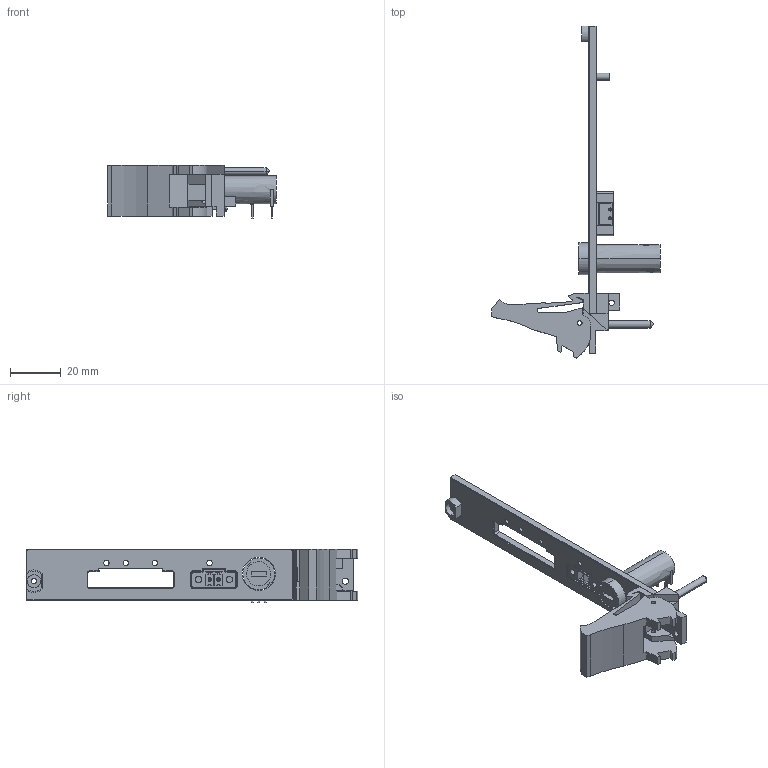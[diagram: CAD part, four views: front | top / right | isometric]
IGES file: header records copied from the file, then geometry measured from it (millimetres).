
Start section:  PTC IGES file: cd_pxi-4110.igs
Global section: file name: cd_pxi-4110.igs; native system: Pro/ENGINEER by Parametric Technology Corporation; preprocessor: 2006080; author: scarrasc; organization: Unknown; date: 080530.155411; units: inch
Bounding box: 66.29 x 130.5 x 20.98 mm (x, y, z)
Surface area: 13637.9 mm2 (no closed solid volume)
Topology: 0 solids, 0 shells, 538 faces, 2825 edges, 2823 vertices
Faces by surface type: bspline 368, revolution 170
